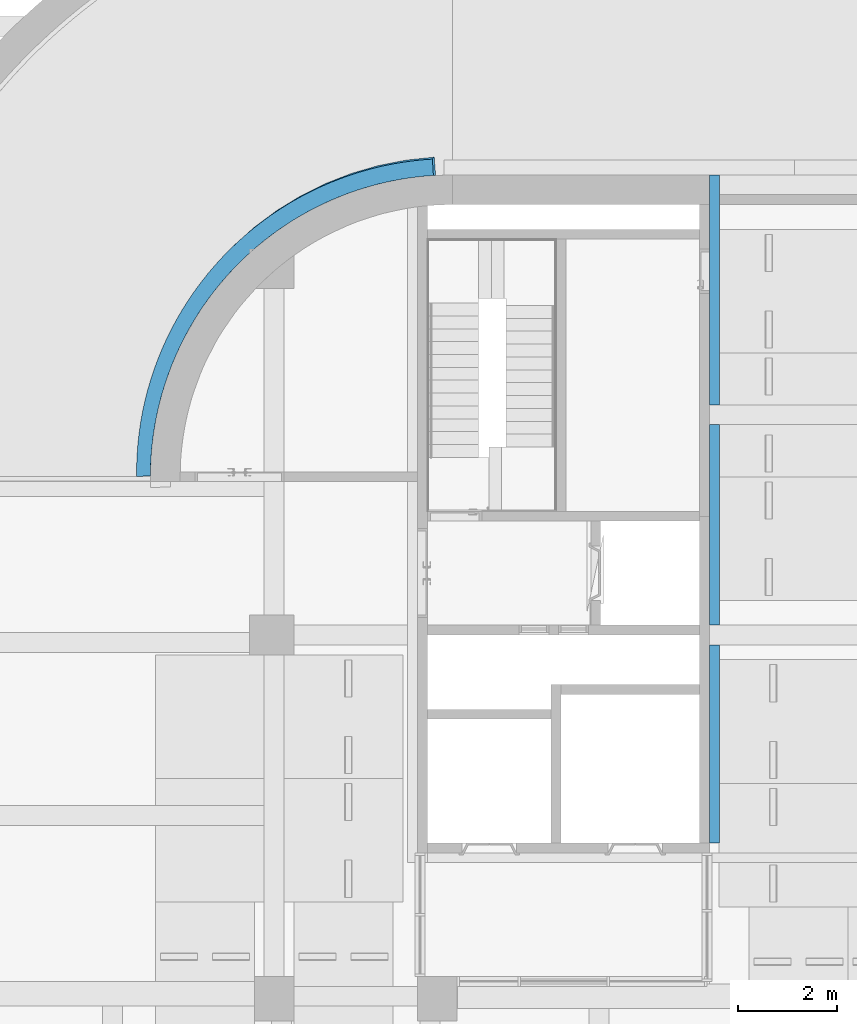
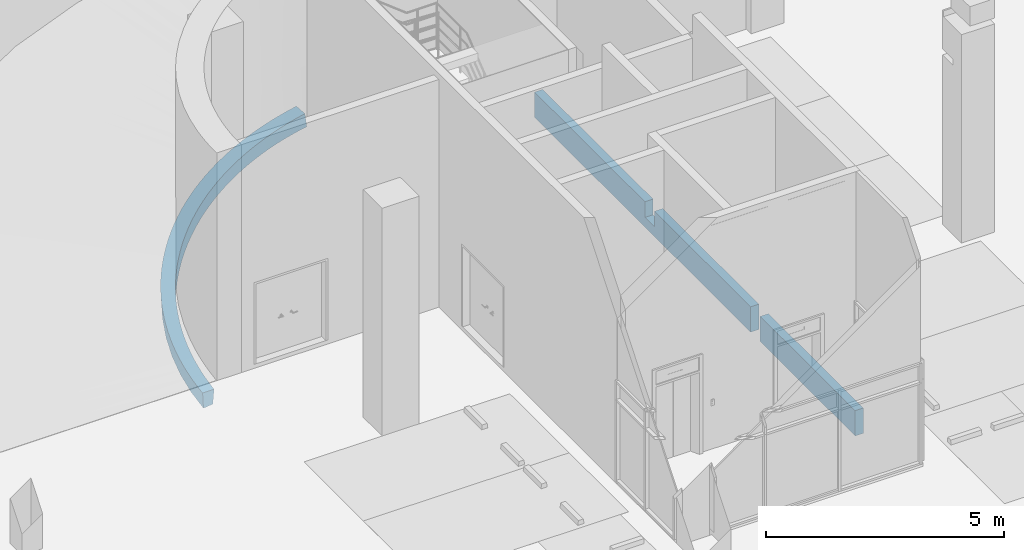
# One storey, part 20 of 29: 2 beams.
"""IFC2X3 building model written with IfcOpenShell, lengths in millimetres."""

import ifcopenshell
import ifcopenshell.guid

model = None  # the IFC model being written
_history = None  # IfcOwnerHistory: only IFC2X3 demands one
_inside = {}  # id of a spatial element -> (the spatial element, [elements in it])
_under = {}  # id of a project, library or spatial element -> (it, [spatial elements below it])
_declared = {}  # id of a project -> (the project, [libraries it declares])
_typed = {}  # id of a type object -> (the type object, [elements of that type])
_made_of = {}  # id of a material, layer set ... -> (it, [elements and type objects made of it])


def new_model(schema):
    """Start an empty IFC model of exactly this schema.

    Asked for "IFC4X3", IfcOpenShell would pick the latest addendum, in which some entities
    have other attributes; the version numbers below select the first issue.
    IFC2X3 requires an IfcOwnerHistory on every rooted entity: one is made here for all.
    """
    global model, _history
    if schema == "IFC4X3":
        model = ifcopenshell.file(schema_version=(4, 3, 0, 0))
    else:
        model = ifcopenshell.file(schema=schema)
    _inside.clear()
    _under.clear()
    _declared.clear()
    _typed.clear()
    _made_of.clear()
    _history = None
    if model.schema == "IFC2X3":
        org = make("IfcOrganization", Name="unknown")
        user = make(
            "IfcPersonAndOrganization",
            ThePerson=make("IfcPerson", FamilyName="unknown"),
            TheOrganization=org,
        )
        app = make(
            "IfcApplication",
            ApplicationDeveloper=org,
            Version="unknown",
            ApplicationFullName="unknown",
            ApplicationIdentifier="unknown",
        )
        _history = make(
            "IfcOwnerHistory",
            OwningUser=user,
            OwningApplication=app,
            ChangeAction="ADDED",
            CreationDate=0,
        )
    return model


def make(cls, **values):
    """One entity of the class cls with the attributes given. An attribute that is None is left unset."""
    return model.create_entity(
        cls, **{name: value for name, value in values.items() if value is not None}
    )


def entity(cls, *values):
    """Any entity or typed value of the class cls, its attributes in the order of the schema. None: left unset."""
    e = model.create_entity(cls)
    for i, value in enumerate(values):
        if value is not None:
            e[i] = value
    return e


def rooted(cls, **values):
    """An entity with a GlobalId (a new one), such as an element, a storey or a relation."""
    return make(cls, GlobalId=ifcopenshell.guid.new(), OwnerHistory=_history, **values)


def si_unit(unit_type, name, prefix=None):
    """IfcSIUnit, for example si_unit("LENGTHUNIT", "METRE", prefix="MILLI")."""
    return make("IfcSIUnit", UnitType=unit_type, Prefix=prefix, Name=name)


def converted_unit(unit_type, name, factor, base, dimensions=None, offset=None):
    """IfcConversionBasedUnit, such as the inch: factor (a typed value) times the base unit."""
    return make(
        "IfcConversionBasedUnit"
        if offset is None
        else "IfcConversionBasedUnitWithOffset",
        ConversionOffset=offset,
        Dimensions=None
        if dimensions is None
        else entity("IfcDimensionalExponents", *dimensions),
        UnitType=unit_type,
        Name=name,
        ConversionFactor=make(
            "IfcMeasureWithUnit", ValueComponent=factor, UnitComponent=base
        ),
    )


def derived_unit(unit_type, elements):
    """IfcDerivedUnit: a product of units, each with its exponent."""
    return make(
        "IfcDerivedUnit",
        Elements=[
            make("IfcDerivedUnitElement", Unit=unit, Exponent=power)
            for unit, power in elements
        ],
        UnitType=unit_type,
    )


def assignment(units):
    """IfcUnitAssignment: the units of a project."""
    return None if units is None else make("IfcUnitAssignment", Units=units)


def point(xyz):
    """IfcCartesianPoint."""
    return None if xyz is None else make("IfcCartesianPoint", Coordinates=xyz)


def direction(xyz):
    """IfcDirection."""
    return None if xyz is None else make("IfcDirection", DirectionRatios=xyz)


def frame(location, z_axis=None, x_axis=None):
    """IfcAxis2Placement3D, a coordinate frame: its origin and axes. An axis left out is left unset."""
    return make(
        "IfcAxis2Placement3D",
        Location=point(location),
        Axis=direction(z_axis),
        RefDirection=direction(x_axis),
    )


def origin():
    """The frame at (0, 0, 0) with its axes left unset."""
    return frame((0.0, 0.0, 0.0))


def place(relative_to, where):
    """IfcLocalPlacement: puts the frame where relative to a parent placement (None: the world)."""
    return make(
        "IfcLocalPlacement", PlacementRelTo=relative_to, RelativePlacement=where
    )


def context(
    kind, dimensions, precision=None, world=None, true_north=None, identifier=None
):
    """IfcGeometricRepresentationContext, for example the 3D "Model" context."""
    return make(
        "IfcGeometricRepresentationContext",
        ContextIdentifier=identifier,
        ContextType=kind,
        CoordinateSpaceDimension=dimensions,
        Precision=precision,
        WorldCoordinateSystem=world,
        TrueNorth=true_north,
    )


def subcontext(parent, identifier, kind, view, scale=None):
    """IfcGeometricRepresentationSubContext, for example "Body" below "Model"."""
    return make(
        "IfcGeometricRepresentationSubContext",
        ContextIdentifier=identifier,
        ContextType=kind,
        ParentContext=parent,
        TargetScale=scale,
        TargetView=view,
    )


def project(units=None, contexts=None):
    """IfcProject with its units and contexts."""
    return rooted(
        "IfcProject",
        Name="project",
        RepresentationContexts=contexts,
        UnitsInContext=assignment(units),
    )


def spatial(cls, under=None, at=None, **own):
    """A site, building, storey or space (cls), placed at a placement, below another one or the project."""
    s = rooted(cls, ObjectPlacement=at, **own)
    if under is not None:
        _under.setdefault(under.id(), (under, []))[1].append(s)
    return s


def faces_of(points, faces, orient=None, outer=None):
    """IfcFace entities. A face is a list of loops; a loop is a list of indices into points, from 0.

    orient and outer hold one flag for each loop. By default every Orientation is true, the
    first loop of a face is its IfcFaceOuterBound and the others are IfcFaceBound.
    """
    made = []
    for i, loops in enumerate(faces):
        bounds = []
        for j, loop in enumerate(loops):
            is_outer = j == 0 if outer is None else outer[i][j]
            bounds.append(
                make(
                    "IfcFaceOuterBound" if is_outer else "IfcFaceBound",
                    Bound=make("IfcPolyLoop", Polygon=[points[k] for k in loop]),
                    Orientation=True if orient is None else orient[i][j],
                )
            )
        made.append(make("IfcFace", Bounds=bounds))
    return made


def faceted_brep(points, faces, orient=None, outer=None, voids=None):
    """IfcFacetedBrep: a solid bounded by flat faces; with voids (closed shells), ...WithVoids."""
    shared = [point(p) for p in points]
    hull = make("IfcClosedShell", CfsFaces=faces_of(shared, faces, orient, outer))
    if voids is None:
        return make("IfcFacetedBrep", Outer=hull)
    return make(
        "IfcFacetedBrepWithVoids",
        Outer=hull,
        Voids=[
            make(cls, CfsFaces=faces_of(shared, fs, o, b)) for cls, fs, o, b in voids
        ],
    )


def shape(context_of_items, identifier, shape_type, items):
    """IfcShapeRepresentation: the items that make up one representation, for example the "Body"."""
    return make(
        "IfcShapeRepresentation",
        ContextOfItems=context_of_items,
        RepresentationIdentifier=identifier,
        RepresentationType=shape_type,
        Items=items,
    )


def source(mapping_origin, context_of_items, identifier, shape_type, items):
    """IfcRepresentationMap: a shape defined once, which mapped items show again and again."""
    return make(
        "IfcRepresentationMap",
        MappingOrigin=mapping_origin,
        MappedRepresentation=shape(context_of_items, identifier, shape_type, items),
    )


def transform(
    local_origin,
    x_axis=None,
    y_axis=None,
    z_axis=None,
    scale=None,
    scale2=None,
    scale3=None,
    uniform=True,
):
    """IfcCartesianTransformationOperator3D, or its non-uniform kind. x_axis, y_axis, z_axis: its Axis1, 2, 3."""
    if uniform:
        return make(
            "IfcCartesianTransformationOperator3D",
            Axis1=direction(x_axis),
            Axis2=direction(y_axis),
            LocalOrigin=point(local_origin),
            Scale=scale,
            Axis3=direction(z_axis),
        )
    return make(
        "IfcCartesianTransformationOperator3DnonUniform",
        Axis1=direction(x_axis),
        Axis2=direction(y_axis),
        LocalOrigin=point(local_origin),
        Scale=scale,
        Axis3=direction(z_axis),
        Scale2=scale2,
        Scale3=scale3,
    )


def mapped(mapping_source, mapping_target):
    """IfcMappedItem: shows the shape of a source again, moved by a transform."""
    return make(
        "IfcMappedItem", MappingSource=mapping_source, MappingTarget=mapping_target
    )


def material(Name=None, Category=None):
    """IfcMaterial."""
    return make("IfcMaterial", Name=Name, Category=Category)


def material_list(materials):
    """IfcMaterialList."""
    return make("IfcMaterialList", Materials=materials)


def made_of(thing, what):
    """Note that an element or type object is made of a material, layer set ...; save() writes the relation."""
    if what is not None:
        _made_of.setdefault(what.id(), (what, []))[1].append(thing)
    return thing


def type_object(cls, material=None, **own):
    """A type object (cls), such as IfcWallType, which elements share."""
    return made_of(rooted(cls, **own), material)


def type_shapes(of_type, sources):
    """Give a type object the sources (RepresentationMaps) that its elements show as mapped items."""
    of_type.RepresentationMaps = sources


def element(
    cls,
    number,
    at=None,
    inside=None,
    cuts=None,
    type_object=None,
    material=None,
    context=None,
    identifier="Body",
    shape_type=None,
    held_by="IfcProductDefinitionShape",
    body=None,
    shapes=None,
    **own,
):
    """One element of the class cls, such as IfcWall. Its Tag is "e" and its number.

    at: its placement. inside: the storey or other place that contains it. cuts: it is an
    opening in that element (IfcRelVoidsElement). A single representation is given by context,
    identifier, shape_type and body (its items); several are given by shapes. held_by: the class
    of the entity that holds the representations. save() writes the other relations.
    """
    e = rooted(cls, Tag="e%d" % number, ObjectPlacement=at, **own)
    if body is not None:
        shapes = [shape(context, identifier, shape_type, body)]
    if shapes is not None:
        e.Representation = make(held_by, Representations=shapes)
    if inside is not None:
        _inside.setdefault(inside.id(), (inside, []))[1].append(e)
    if cuts is not None:
        rooted(
            "IfcRelVoidsElement", RelatingBuildingElement=cuts, RelatedOpeningElement=e
        )
    if type_object is not None:
        _typed.setdefault(type_object.id(), (type_object, []))[1].append(e)
    return made_of(e, material)


def aggregate(whole, parts):
    """IfcRelAggregates: a whole, such as a stair, and the parts it consists of."""
    return rooted("IfcRelAggregates", RelatingObject=whole, RelatedObjects=parts)


def save(model, path):
    """Write the relations noted so far, then the file.

    IfcRelAggregates (storeys below a building ...), IfcRelContainedInSpatialStructure (elements
    in a storey), IfcRelDefinesByType, IfcRelAssociatesMaterial and IfcRelDeclares: one each for
    every whole, place, type object, material and project.
    """
    for whole, parts in _under.values():
        aggregate(whole, parts)
    for where, things in _inside.values():
        rooted(
            "IfcRelContainedInSpatialStructure",
            RelatedElements=things,
            RelatingStructure=where,
        )
    for kind, things in _typed.values():
        rooted("IfcRelDefinesByType", RelatedObjects=things, RelatingType=kind)
    for what, things in _made_of.values():
        rooted("IfcRelAssociatesMaterial", RelatedObjects=things, RelatingMaterial=what)
    for by, libraries in _declared.values():
        rooted("IfcRelDeclares", RelatingContext=by, RelatedDefinitions=libraries)
    model.write(path)


model = new_model("IFC2X3")

# Units and contexts
model_context = context("Model", 3, precision=0.01, world=origin(), true_north=direction((6.123031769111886e-17, 1.0)))
body_context = subcontext(model_context, "Body", "Model", "MODEL_VIEW")
ifc_project = project(units=[si_unit("LENGTHUNIT", "METRE", prefix="MILLI"), si_unit("AREAUNIT", "SQUARE_METRE"), si_unit("VOLUMEUNIT", "CUBIC_METRE"), converted_unit("PLANEANGLEUNIT", "DEGREE", entity("IfcRatioMeasure", 0.017453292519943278), si_unit("PLANEANGLEUNIT", "RADIAN"), dimensions=[0, 0, 0, 0, 0, 0, 0]), si_unit("MASSUNIT", "GRAM", prefix="KILO"), derived_unit("MASSDENSITYUNIT", [(si_unit("MASSUNIT", "GRAM", prefix="KILO"), 1), (si_unit("LENGTHUNIT", "METRE"), -3)]), derived_unit("MOMENTOFINERTIAUNIT", [(si_unit("LENGTHUNIT", "METRE"), 4)]), si_unit("TIMEUNIT", "SECOND"), si_unit("FREQUENCYUNIT", "HERTZ"), si_unit("THERMODYNAMICTEMPERATUREUNIT", "DEGREE_CELSIUS"), derived_unit("THERMALTRANSMITTANCEUNIT", [(si_unit("MASSUNIT", "GRAM", prefix="KILO"), 1), (si_unit("THERMODYNAMICTEMPERATUREUNIT", "KELVIN"), -1), (si_unit("TIMEUNIT", "SECOND"), -3)]), derived_unit("VOLUMETRICFLOWRATEUNIT", [(si_unit("LENGTHUNIT", "METRE"), 3), (si_unit("TIMEUNIT", "SECOND"), -1)]), derived_unit("MASSFLOWRATEUNIT", [(si_unit("MASSUNIT", "GRAM", prefix="KILO"), 1), (si_unit("TIMEUNIT", "SECOND"), -1)]), derived_unit("ROTATIONALFREQUENCYUNIT", [(si_unit("TIMEUNIT", "SECOND"), -1)]), si_unit("ELECTRICCURRENTUNIT", "AMPERE"), si_unit("ELECTRICVOLTAGEUNIT", "VOLT"), si_unit("POWERUNIT", "WATT"), si_unit("FORCEUNIT", "NEWTON", prefix="KILO"), si_unit("ILLUMINANCEUNIT", "LUX"), si_unit("LUMINOUSFLUXUNIT", "LUMEN"), si_unit("LUMINOUSINTENSITYUNIT", "CANDELA"), derived_unit("USERDEFINED", [(si_unit("MASSUNIT", "GRAM", prefix="KILO"), -1), (si_unit("LENGTHUNIT", "METRE"), -2), (si_unit("TIMEUNIT", "SECOND"), 3), (si_unit("LUMINOUSFLUXUNIT", "LUMEN"), 1)]), derived_unit("SOUNDPOWERUNIT", [(si_unit("MASSUNIT", "GRAM", prefix="KILO"), 1), (si_unit("LENGTHUNIT", "METRE"), 2), (si_unit("TIMEUNIT", "SECOND"), -3)]), derived_unit("SOUNDPRESSUREUNIT", [(si_unit("MASSUNIT", "GRAM", prefix="KILO"), 1), (si_unit("LENGTHUNIT", "METRE"), -1), (si_unit("TIMEUNIT", "SECOND"), -2)]), derived_unit("LINEARVELOCITYUNIT", [(si_unit("LENGTHUNIT", "METRE"), 1), (si_unit("TIMEUNIT", "SECOND"), -1)]), si_unit("PRESSUREUNIT", "PASCAL"), derived_unit("USERDEFINED", [(si_unit("LENGTHUNIT", "METRE"), -2), (si_unit("MASSUNIT", "GRAM", prefix="KILO"), 1), (si_unit("TIMEUNIT", "SECOND"), -2)]), derived_unit("LINEARFORCEUNIT", [(si_unit("MASSUNIT", "GRAM", prefix="KILO"), 1), (si_unit("LENGTHUNIT", "METRE"), 1), (si_unit("TIMEUNIT", "SECOND"), -2), (si_unit("LENGTHUNIT", "METRE"), -1)]), derived_unit("PLANARFORCEUNIT", [(si_unit("MASSUNIT", "GRAM", prefix="KILO"), 1), (si_unit("LENGTHUNIT", "METRE"), 1), (si_unit("TIMEUNIT", "SECOND"), -2), (si_unit("LENGTHUNIT", "METRE"), -2)])], contexts=[model_context])

# Site, building, storey
site_placement = place(None, frame((-14167.972527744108, -657.2125860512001, 0.0)))
site = spatial("IfcSite", under=ifc_project, at=site_placement, Name="Default", CompositionType="ELEMENT")
building_placement = place(site_placement, origin())
building = spatial("IfcBuilding", under=site, at=building_placement, Name="Sample Building", CompositionType="ELEMENT")
storey_placement = place(building_placement, frame((0.0, 0.0, -6100.0)))
storey = spatial("IfcBuildingStorey", under=building, at=storey_placement, Name="지하1층", CompositionType="ELEMENT", Elevation=-6099.999999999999)

# Beams
ifc_material = material(Name="KBIMS-콘크리트")
ifc_material_list_1 = material_list([ifc_material, ifc_material])
beam_type_1 = type_object("IfcBeamType", Name="BM111-철근콘크리트구조 보:BM110-철근 콘크리트구조 보_600 x 600_RAWG1", PredefinedType="BEAM", material=ifc_material_list_1)
beam_1_placement = place(storey_placement, frame((24386.24972502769, 23163.61374642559, -629.4841038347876), z_axis=(-0.11708793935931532, -0.12554922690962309, 0.9851536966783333), x_axis=(0.9930939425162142, -0.007405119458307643, 0.11708793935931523)))
element("IfcBeam", 1, at=beam_1_placement, inside=storey, type_object=beam_type_1, material=ifc_material, Name="BM111-철근콘크리트구조 보:BM110-철근 콘크리트구조 보_600 x 600_RAWG1", ObjectType="BM111-철근콘크리트구조 보:BM110-철근 콘크리트구조 보_600 x 600_RAWG1", context=body_context, shape_type="Brep", body=[
    faceted_brep([(307.36863948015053, 57.7994184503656, 196.29712702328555), (331.82988680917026, 57.849593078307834, 404.63610747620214), (262.2529559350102, 57.706877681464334, 412.65338341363), (192.67666160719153, 57.5641635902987, 420.67648295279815), (123.10101557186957, 57.42145082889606, 428.70521375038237), (53.52599759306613, 57.27873935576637, 436.7393953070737), (53.5259975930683, 57.27873935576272, -12.042058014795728), (283.02144798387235, 57.74947777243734, -12.042058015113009), (6110.484162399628, 6488.859000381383, -12.042058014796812), (6106.498907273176, 6547.665994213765, -12.042058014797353), (6106.498907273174, 6547.6659942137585, 304.22107767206), (6107.126567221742, 6538.40415436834, 305.3245415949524), (6107.754227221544, 6529.142313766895, 306.42799914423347), (6111.950686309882, 6467.218764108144, 313.805415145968), (6116.147147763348, 6405.295179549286, 321.1825366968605), (6120.343611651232, 6343.371559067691, 328.55935517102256), (6124.540078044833, 6281.44790161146, 335.9358616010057), (6128.736547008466, 6219.524206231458, 343.3120466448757), (6130.166685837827, 6198.420873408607, 165.6305212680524), (6131.602364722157, 6177.235790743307, -12.042058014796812), (6123.554226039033, 6295.9952746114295, -12.042058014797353), (5535.486422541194, 6483.481419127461, -12.042058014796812), (5797.601725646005, 6519.304648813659, 299.74415711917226), (5071.691334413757, 6393.029953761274, 295.6606544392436), (4972.386151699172, 6369.05676104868, -12.042058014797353), (4854.709407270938, 6338.493302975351, 296.10147302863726), (5290.42366044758, 6440.057509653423, 295.9735790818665), (5510.643761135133, 6479.519653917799, 297.07860678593), (5732.087518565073, 6511.369489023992, 299.0110674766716), (4639.738014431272, 6276.513080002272, 297.2553825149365), (3374.156703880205, 5735.229387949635, -12.042058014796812), (3603.9196658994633, 5857.872286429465, 312.2430886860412), (3887.471552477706, 5993.459486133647, -12.042058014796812), (2885.6864417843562, 5432.621191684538, -12.04205801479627), (3212.3940822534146, 5641.584639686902, 321.7366783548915), (2425.887558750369, 5088.005602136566, -12.042058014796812), (2655.3831845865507, 5267.957715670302, 338.6243199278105), (4427.034164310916, 6207.163763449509, 299.0807320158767), (4421.609556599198, 6205.288450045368, -12.042058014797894), (4216.8517758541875, 6130.528708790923, 301.5351230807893), (1998.3622289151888, 4704.082420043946, -12.042058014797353), (2139.935574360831, 4838.891606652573, 357.60326072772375), (5863.192123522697, 6526.573314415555, 300.55309819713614), (5984.747731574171, 6538.263995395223, 302.25304184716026), (3805.04977223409, 5955.77821454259, 308.1592624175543), (4009.441316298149, 6046.699964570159, 304.5756494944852), (3406.2897095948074, 5753.099370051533, 316.7836138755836), (2836.7188787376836, 5398.8694563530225, 332.7018938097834), (3022.462273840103, 5523.461107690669, 327.0576996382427), (2478.6693438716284, 5130.881339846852, 344.7794468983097), (2306.78588389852, 4987.802833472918, 351.1212140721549), (1978.3152453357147, 4684.323798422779, 364.1791493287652), (1822.115576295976, 4524.282069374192, 370.80258840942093), (1606.4597877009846, 4283.859391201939, -12.042058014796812), (1671.520838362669, 4358.9553275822, 377.42748650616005), (1387.8509485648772, 4013.2334310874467, 390.4962569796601), (1253.25049232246, 3830.628643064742, -12.04205801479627), (1526.7089148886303, 4188.538753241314, 384.0075468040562), (1255.1111962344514, 3833.246183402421, 396.84710639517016), (1128.6468632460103, 3648.789383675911, 403.0138097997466), (277.7030342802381, 1761.9250847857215, -12.042058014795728), (359.24310390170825, 2039.374305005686, 440.29632694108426), (451.80955801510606, 2309.5215016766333, -12.042058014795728), (152.69945376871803, 1201.0783835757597, -12.042058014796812), (189.08746142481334, 1390.4081305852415, 445.8383787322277), (77.77812435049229, 631.3752048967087, -12.042058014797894), (113.28013104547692, 949.4828698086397, 446.0463985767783), (1008.6079132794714, 3460.0807318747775, 408.95054734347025), (941.5014686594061, 3347.940893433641, -12.042058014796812), (788.3687044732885, 3070.80390371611, 419.9533480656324), (673.6550329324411, 2839.5776332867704, -12.042058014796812), (595.4420710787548, 2667.2559863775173, 429.4954757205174), (56.92140325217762, 280.9544527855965, 440.3680461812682), (688.4306788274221, 2870.695947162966, 424.9293494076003), (895.1368558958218, 3267.3429737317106, 414.61209158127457), (430.74955473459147, 2251.348226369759, 437.2225089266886), (509.5140679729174, 2460.725101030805, 433.6076805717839), (68.02200389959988, 504.3930166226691, 443.1063378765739), (86.8155380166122, 727.3252366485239, 444.9876427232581), (238.3393106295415, 1608.6473699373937, 444.6470778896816), (295.0806258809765, 1825.05554133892, 442.78556591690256), (147.3843799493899, 1170.5989394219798, 446.3179052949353), (294.1849817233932, 334.74710798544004, -12.042058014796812), (5863.7299019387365, 6154.5340811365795, -12.042058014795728), (5596.929868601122, 6120.148767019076, -12.04205801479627), (5331.712062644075, 6074.145551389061, -12.042058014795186), (5068.583258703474, 6016.612336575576, -12.04205801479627), (4808.046239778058, 5947.6590562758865, -12.042058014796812), (4550.598836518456, 5867.417465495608, -12.04205801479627), (4296.7329759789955, 5776.040888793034, -12.042058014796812), (4046.93374165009, 5673.703927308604, -12.042058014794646), (3801.678446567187, 5560.602125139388, -12.042058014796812), (3561.4357212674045, 5436.951595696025, -12.042058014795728), (3326.6646183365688, 5302.988608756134, -12.042058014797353), (3097.8137352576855, 5158.969139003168, -12.042058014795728), (2875.3203572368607, 5005.168376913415, -12.042058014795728), (2659.6096216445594, 4841.880202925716, -12.042058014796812), (2451.093705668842, 4669.416625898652, -12.04205801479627), (2250.171038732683, 4488.107186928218, -12.04205801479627), (2057.225541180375, 4298.298329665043, -12.04205801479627), (1872.6258906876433, 4100.352738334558, -12.042058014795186), (1696.7248177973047, 3894.6486447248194, -12.04205801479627), (1529.858431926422, 3681.5791054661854, -12.042058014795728), (1431.7563608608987, 3544.349028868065, -12.042058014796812), (1399.6993795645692, 3499.506122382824, -12.042058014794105), (1367.6423982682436, 3454.6632158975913, -12.042058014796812), (1291.6685279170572, 3337.738729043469, -12.04205801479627), (1215.6946575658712, 3220.8142421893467, -12.04205801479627), (1074.3237207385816, 2980.506985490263, -12.04205801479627), (943.8166238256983, 2734.229359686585, -12.042058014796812), (824.4383451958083, 2482.481400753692, -12.042058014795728), (716.431267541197, 2225.7742514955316, -12.042058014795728), (620.0146857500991, 1964.6291237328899, -12.042058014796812), (535.3843616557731, 1699.576240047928, -12.042058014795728), (462.7121265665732, 1431.1537572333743, -12.042058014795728), (402.14553238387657, 1159.906673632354, -12.042058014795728), (353.80755201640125, 886.3857225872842, -12.042058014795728), (317.7963296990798, 611.1462542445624, -12.042058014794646), (1135.833884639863, 3078.5806668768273, 111.63560822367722), (1259.0167796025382, 3284.8890770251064, 70.70281482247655), (1021.0744311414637, 2867.397353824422, 152.18851865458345), (579.5551682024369, 1750.400322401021, 347.0156761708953), (817.5450292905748, 2431.7620418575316, 231.89640094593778), (729.100012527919, 2208.0055285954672, 270.92412032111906), (914.9216564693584, 2651.6763465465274, 192.29679360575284), (564.3399061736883, 1692.1207867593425, 356.25126484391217), (549.1246441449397, 1633.8412511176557, 365.4868535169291), (533.9093821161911, 1575.561715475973, 374.722442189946), (526.3017511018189, 1546.4219476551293, 379.34023652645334), (518.6941200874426, 1517.2821798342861, 383.9580308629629), (649.7278154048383, 1980.764027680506, 309.317643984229), (614.6414918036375, 1865.58217504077, 328.16666007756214), (597.0983300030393, 1807.9912487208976, 337.5911681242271), (1432.3684591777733, 3544.82666754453, 16.972767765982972), (1390.4267342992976, 3485.993610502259, 29.455403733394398), (1324.721756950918, 3385.441343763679, 50.07910927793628), (689.413913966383, 2094.384778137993, 290.12088215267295), (773.3225209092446, 2319.8837852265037, 251.41026063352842), (416.3744381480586, 1012.4564004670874, 418.77762941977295), (467.24186033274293, 1281.7817643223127, 420.0857277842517), (377.32940651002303, 741.1729044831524, 416.31171307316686), (334.95596987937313, 194.8347807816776, 407.6338347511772), (341.07165451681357, 331.7258194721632, 410.2922655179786), (350.1749760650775, 468.45655544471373, 412.61930280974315), (440.3355018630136, 1147.3964370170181, 419.5720203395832), (511.69640480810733, 1485.253171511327, 388.8715436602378), (504.6986895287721, 1453.2241631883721, 393.7850564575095), (497.7009742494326, 1421.195154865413, 398.69856925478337), (490.70325897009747, 1389.1661465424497, 403.6120820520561), (362.26251680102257, 604.9609056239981, 414.62303431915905), (395.3693248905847, 877.0267430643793, 417.6937376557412), (4176.810479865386, 5755.1546558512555, 328.122719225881), (532.0109718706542, 1554.0290045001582, 420.2417036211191), (3769.895715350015, 5568.436725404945, 332.206249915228), (511.2164554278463, 1472.6741981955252, 420.3137600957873), (504.929246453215, 1445.3816075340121, 420.28115748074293), (498.6420374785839, 1418.0890168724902, 420.2485548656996), (492.354828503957, 1390.7964262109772, 420.21595225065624), (517.5036644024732, 1499.9667888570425, 420.3463627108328), (546.5182793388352, 1608.0912201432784, 420.13704453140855), (3971.679275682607, 5665.437674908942, 329.89971546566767), (5243.271975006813, 6090.883189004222, 328.77157768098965), (575.5328942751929, 1716.2156514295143, 419.9277263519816), (561.0255868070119, 1662.1534357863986, 420.03238544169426), (4596.051977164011, 5912.29597545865, 326.33968651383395), (714.5988073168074, 2141.789814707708, 417.2347640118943), (591.9642631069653, 1769.723934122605, 419.66457930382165), (5025.453411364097, 6039.077859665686, 327.2209084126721), (4385.024414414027, 5837.475042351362, 326.92078948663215), (3187.212580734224, 5234.99938784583, 341.83715514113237), (2820.1394735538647, 4978.776907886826, 350.04079711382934), (3001.3761879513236, 5110.178305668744, 345.79272875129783), (3377.4090791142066, 5353.0812964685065, 338.2223134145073), (795.4628651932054, 2350.5657002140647, 415.0533148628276), (2643.7359842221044, 4840.962716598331, 354.53232337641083), (524.7573181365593, 1526.997896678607, 420.2940331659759), (3571.7203713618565, 5464.27404648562, 334.9961337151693), (5905.81293868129, 6199.235671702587, 338.35372803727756), (755.0308362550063, 2246.177757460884, 416.14403943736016), (677.9285884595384, 2036.019298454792, 418.0549510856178), (641.2583696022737, 1930.2487822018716, 418.87513815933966), (5683.736436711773, 6171.009565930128, 334.30097951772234), (5462.794226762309, 6134.877938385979, 331.11888752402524), (4809.62036371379, 5979.524539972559, 326.424830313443), (608.3956319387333, 1823.2322168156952, 419.4014322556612), (1308.7514383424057, 3343.6852785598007, 397.6748435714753), (1191.982695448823, 3152.691302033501, 401.8545784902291), (1082.134614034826, 2957.62851433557, 405.7305080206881), (1562.4474936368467, 3712.488531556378, 388.5985972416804), (1699.0510377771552, 3889.8231764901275, 383.800718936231), (1841.928111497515, 4062.1403650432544, 378.8963810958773), (979.3467138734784, 2758.748279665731, 409.2541919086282), (883.7492126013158, 2556.3069859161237, 412.37758300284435), (2306.330634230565, 4546.807928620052, 364.0466662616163), (2145.762814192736, 4390.843645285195, 368.96937211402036), (1990.8957129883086, 4229.2186888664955, 373.935881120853), (2472.3928726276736, 4696.911669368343, 359.21762316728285), (1432.2922127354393, 3530.364453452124, 393.2398701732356), (5427.069542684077, 6308.790926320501, 312.5307505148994), (5636.155750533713, 6347.61567672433, 314.16139251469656), (5000.384230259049, 6216.072730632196, 310.490096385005), (5212.408161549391, 6268.592113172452, 310.882146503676), (4656.358146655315, 6095.002857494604, 312.9055437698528), (1078.6513389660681, 3288.0697729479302, 406.6140470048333), (975.4596897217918, 3100.9679025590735, 411.0715852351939), (5847.931121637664, 6358.238873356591, 318.9185589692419), (4375.515032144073, 6021.057201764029, 312.7897230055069), (4169.667131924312, 5947.811087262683, 314.29993674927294), (3972.096968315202, 5854.717026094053, 317.3798891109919), (3392.0619108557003, 5552.877020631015, 327.94151647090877), (3595.8823742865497, 5661.933082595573, 324.0729616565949), (3775.048897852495, 5775.275213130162, 319.5472232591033), (3209.618401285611, 5433.185391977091, 332.56247934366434), (3019.171419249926, 5326.979303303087, 336.46221101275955), (2818.2914132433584, 5173.41151291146, 342.4771616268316), (2491.4527827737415, 4940.040516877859, 351.58257595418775), (2163.5526398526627, 4651.681715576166, 362.67367774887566), (2324.2753659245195, 4799.555286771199, 357.04157476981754), (2642.577315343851, 5074.973010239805, 346.3287784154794), (871.204790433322, 2903.3951426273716, 415.52744444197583), (777.8686960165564, 2705.803499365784, 419.4075267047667), (1860.3127121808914, 4343.237405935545, 374.003857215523), (1711.806711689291, 4177.125459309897, 379.84751065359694), (1439.714453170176, 3835.1497614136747, 391.0786716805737), (2007.4114950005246, 4498.89586404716, 368.37609209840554), (612.5467823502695, 2301.3647813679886, 425.7801973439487), (536.5539559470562, 2096.53014137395, 428.4868378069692), (466.9708820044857, 1889.3247459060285, 430.7242300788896), (692.6430778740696, 2505.994666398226, 422.78769033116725), (1577.6909197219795, 4012.357834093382, 385.3442070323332), (1318.1680461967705, 3661.321849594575, 396.2790953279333), (1188.924471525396, 3467.0674533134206, 401.8383669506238)], [[[0, 1, 2, 3, 4, 5, 6, 7]], [[8, 9, 10, 11, 12, 13, 14, 15, 16, 17, 18, 19, 20]], [[21, 22, 9]], [[23, 24, 25]], [[21, 24, 26]], [[23, 26, 24]], [[27, 28, 21]], [[27, 21, 26]], [[24, 29, 25]], [[22, 21, 28]], [[30, 31, 32]], [[33, 34, 30]], [[35, 36, 33]], [[37, 29, 38]], [[37, 38, 39]], [[29, 24, 38]], [[32, 39, 38]], [[35, 40, 41]], [[42, 43, 9]], [[42, 9, 22]], [[31, 44, 32]], [[45, 32, 44]], [[39, 32, 45]], [[43, 10, 9]], [[34, 46, 30]], [[47, 48, 33]], [[34, 33, 48]], [[49, 36, 35]], [[41, 50, 35]], [[49, 35, 50]], [[47, 33, 36]], [[31, 30, 46]], [[40, 51, 41]], [[51, 40, 52]], [[52, 53, 54]], [[40, 53, 52]], [[55, 53, 56]], [[54, 53, 57]], [[55, 57, 53]], [[58, 55, 56]], [[56, 59, 58]], [[60, 61, 62]], [[63, 64, 60]], [[65, 66, 63]], [[67, 59, 68]], [[68, 59, 56]], [[69, 68, 70]], [[62, 71, 70]], [[65, 6, 72]], [[70, 73, 69]], [[70, 71, 73]], [[69, 74, 68]], [[75, 76, 62]], [[61, 75, 62]], [[76, 71, 62]], [[67, 68, 74]], [[65, 77, 78]], [[79, 80, 60]], [[72, 77, 65]], [[61, 60, 80]], [[60, 64, 79]], [[66, 81, 63]], [[64, 63, 81]], [[65, 78, 66]], [[72, 6, 5]], [[82, 7, 6, 65, 63, 60, 62, 70, 68, 56, 53, 40, 35, 33, 30, 32, 38, 24, 21, 9, 8, 20, 19, 83, 84, 85, 86, 87, 88, 89, 90, 91, 92, 93, 94, 95, 96, 97, 98, 99, 100, 101, 102, 103, 104, 105, 106, 107, 108, 109, 110, 111, 112, 113, 114, 115, 116, 117]], [[108, 107, 118]], [[106, 119, 107]], [[108, 120, 109]], [[121, 113, 112]], [[111, 110, 122]], [[111, 123, 112]], [[124, 110, 109]], [[113, 121, 125, 126, 127, 128, 129]], [[112, 130, 131, 132, 121]], [[107, 119, 118]], [[105, 104, 103, 102, 133, 134]], [[105, 134, 135]], [[105, 135, 106]], [[112, 123, 136, 130]], [[109, 120, 124]], [[110, 124, 122]], [[111, 122, 137, 123]], [[120, 108, 118]], [[116, 115, 138]], [[114, 139, 115]], [[116, 140, 117]], [[0, 7, 82]], [[1, 0, 141]], [[142, 0, 82]], [[143, 82, 117]], [[0, 142, 141]], [[144, 115, 139]], [[119, 106, 135]], [[114, 129, 145, 146, 147, 148, 139]], [[144, 138, 115]], [[143, 117, 149]], [[150, 116, 138]], [[140, 116, 150]], [[149, 117, 140]], [[143, 142, 82]], [[113, 129, 114]], [[90, 89, 151]], [[128, 127, 152]], [[92, 91, 153]], [[154, 155, 156, 157, 139, 148, 147, 146, 145, 129, 158]], [[152, 127, 159]], [[91, 90, 160]], [[86, 85, 161]], [[162, 163, 125]], [[88, 87, 164]], [[136, 123, 165]], [[166, 162, 121]], [[87, 86, 167]], [[168, 89, 88]], [[169, 94, 93]], [[170, 96, 95]], [[171, 95, 94]], [[163, 159, 126]], [[93, 172, 169]], [[137, 122, 173]], [[95, 171, 170]], [[96, 170, 174]], [[128, 152, 175]], [[171, 94, 169]], [[174, 97, 96]], [[92, 172, 93]], [[127, 126, 159]], [[172, 92, 176]], [[83, 19, 18]], [[177, 83, 18]], [[178, 165, 123]], [[179, 180, 130]], [[84, 83, 181]], [[177, 18, 17]], [[125, 121, 162]], [[181, 83, 177]], [[181, 182, 84]], [[84, 182, 85]], [[168, 151, 89]], [[151, 160, 90]], [[88, 164, 168]], [[161, 85, 182]], [[167, 183, 87]], [[183, 164, 87]], [[184, 131, 180]], [[161, 167, 86]], [[132, 184, 166]], [[91, 160, 153]], [[153, 176, 92]], [[175, 158, 129]], [[185, 119, 135, 134]], [[186, 118, 119]], [[187, 120, 118]], [[188, 134, 133, 102]], [[189, 102, 101]], [[190, 101, 100]], [[124, 120, 191]], [[132, 166, 121]], [[129, 128, 175]], [[178, 123, 137]], [[136, 179, 130]], [[131, 130, 180]], [[163, 126, 125]], [[192, 122, 124]], [[136, 165, 179]], [[98, 97, 193]], [[194, 99, 98]], [[190, 189, 101]], [[190, 100, 195]], [[193, 97, 196]], [[194, 98, 193]], [[100, 99, 195]], [[194, 195, 99]], [[174, 196, 97]], [[191, 120, 187]], [[132, 131, 184]], [[173, 122, 192]], [[191, 192, 124]], [[189, 188, 102]], [[188, 197, 134]], [[197, 185, 134]], [[119, 185, 186]], [[187, 118, 186]], [[137, 173, 178]], [[198, 199, 27]], [[27, 26, 198]], [[25, 200, 23]], [[23, 200, 201]], [[25, 202, 200]], [[10, 43, 11]], [[12, 11, 43]], [[203, 74, 204]], [[42, 22, 205]], [[42, 205, 43]], [[205, 177, 15]], [[37, 206, 202]], [[207, 45, 208]], [[208, 45, 44]], [[46, 209, 210]], [[44, 211, 208]], [[212, 48, 213]], [[47, 213, 48]], [[47, 214, 213]], [[49, 50, 215]], [[41, 216, 217]], [[49, 215, 218]], [[34, 48, 212]], [[39, 206, 37]], [[216, 41, 51]], [[13, 43, 14]], [[43, 13, 12]], [[204, 69, 219]], [[74, 69, 204]], [[16, 15, 177]], [[205, 15, 14]], [[201, 161, 198]], [[219, 191, 187]], [[167, 200, 183]], [[220, 219, 73]], [[221, 222, 190]], [[17, 16, 177]], [[14, 43, 205]], [[223, 188, 189]], [[164, 206, 168]], [[198, 161, 182]], [[224, 52, 221]], [[205, 199, 181]], [[31, 210, 211]], [[181, 177, 205]], [[28, 27, 199]], [[225, 226, 165]], [[164, 183, 202]], [[226, 61, 227]], [[207, 151, 168]], [[208, 211, 160]], [[22, 28, 205]], [[207, 168, 206]], [[169, 172, 212]], [[31, 46, 210]], [[214, 218, 170]], [[218, 174, 170]], [[214, 170, 171]], [[213, 171, 169]], [[206, 164, 202]], [[176, 153, 210]], [[45, 207, 39]], [[198, 26, 201]], [[46, 34, 209]], [[212, 172, 209]], [[213, 214, 171]], [[225, 228, 76]], [[196, 174, 215]], [[50, 217, 215]], [[217, 216, 193]], [[23, 201, 26]], [[217, 196, 215]], [[199, 182, 181]], [[194, 193, 216]], [[57, 55, 229]], [[51, 52, 224]], [[185, 203, 186]], [[221, 195, 224]], [[54, 57, 222]], [[55, 58, 223]], [[229, 189, 190]], [[197, 188, 230]], [[67, 74, 203]], [[187, 186, 204]], [[73, 71, 220]], [[153, 211, 210]], [[219, 69, 73]], [[231, 67, 203]], [[228, 173, 192]], [[75, 61, 226]], [[153, 160, 211]], [[176, 210, 209]], [[61, 80, 227]], [[79, 64, 158]], [[218, 215, 174]], [[169, 212, 213]], [[162, 80, 79]], [[36, 218, 214]], [[81, 139, 64]], [[78, 140, 66]], [[28, 199, 205]], [[199, 198, 182]], [[77, 149, 78]], [[72, 5, 4]], [[151, 207, 208]], [[162, 227, 80]], [[4, 3, 72]], [[226, 227, 180]], [[77, 72, 142]], [[39, 207, 206]], [[81, 66, 138]], [[34, 212, 209]], [[226, 225, 75]], [[31, 211, 44]], [[72, 3, 141]], [[172, 176, 209]], [[229, 190, 222]], [[188, 223, 230]], [[151, 208, 160]], [[219, 220, 191]], [[187, 204, 219]], [[226, 180, 179, 165]], [[186, 203, 204]], [[229, 223, 189]], [[47, 36, 214]], [[191, 220, 192]], [[161, 200, 167]], [[203, 185, 231]], [[216, 51, 224]], [[50, 41, 217]], [[220, 228, 192]], [[71, 76, 228]], [[76, 75, 225]], [[36, 49, 218]], [[217, 193, 196]], [[231, 197, 230]], [[221, 54, 222]], [[216, 224, 194]], [[221, 190, 195]], [[64, 139, 157, 156, 155, 154, 158]], [[79, 158, 175, 152, 159, 163, 162]], [[78, 149, 140]], [[161, 201, 200]], [[77, 142, 143]], [[143, 149, 77]], [[72, 141, 142]], [[25, 29, 202]], [[227, 162, 166, 184, 180]], [[228, 225, 173]], [[144, 139, 81]], [[138, 144, 81]], [[230, 59, 231]], [[229, 55, 223]], [[52, 54, 221]], [[220, 71, 228]], [[223, 58, 230]], [[222, 57, 229]], [[141, 2, 1]], [[66, 150, 138]], [[140, 150, 66]], [[59, 67, 231]], [[200, 202, 183]], [[225, 165, 178, 173]], [[2, 141, 3]], [[58, 59, 230]], [[202, 29, 37]], [[195, 194, 224]], [[231, 185, 197]]]),
])
ifc_material_list_2 = material_list([ifc_material, ifc_material])
ifc_material_list_3 = material_list([ifc_material, ifc_material])
beam_type_2 = type_object("IfcBeamType", Name="BM111-철근콘크리트구조 보:BM110-철근 콘크리트구조 보_400 x 850_-1WG1", PredefinedType="BEAM", material=ifc_material_list_3)
shared_shape = source(origin(), body_context, "Body", "Brep", [
    faceted_brep([(199.99047405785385, 4000.008729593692, 0.0), (199.99047405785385, 4000.008729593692, 650.0), (199.9904740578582, 0.0, 650.0), (199.9904740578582, 0.0, 0.0), (0.0, 0.0, 0.0), (0.0, 4000.008729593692, 0.0), (0.0, 0.0, 650.0), (0.0, 4000.008729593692, 650.0)], [[[0, 1, 2, 3]], [[0, 3, 4, 5]], [[3, 2, 6, 4]], [[1, 0, 5, 7]], [[2, 1, 7, 6]], [[5, 4, 6, 7]]]),
    faceted_brep([(199.99047405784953, 4400.008729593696, 0.0), (199.99047405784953, 4400.008729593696, 650.0), (0.0, 4400.008729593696, 650.0), (0.0, 4400.008729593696, 0.0), (199.9904740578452, 8850.008729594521, 250.0), (199.9904740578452, 8850.008729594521, 650.0), (0.0, 8850.008729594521, 650.0), (0.0, 8850.008729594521, 250.0), (199.9904740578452, 8450.008729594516, 250.0), (0.0, 8450.008729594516, 250.0), (199.9904740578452, 8450.008729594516, 650.0), (0.0, 8450.008729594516, 650.0), (199.99047405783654, 13500.008420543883, 14.21957822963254), (199.99047405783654, 13200.008729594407, 14.219578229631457), (117.47537803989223, 13200.008729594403, 0.0), (117.4753780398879, 13500.008420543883, 0.0), (199.99047405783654, 13200.008729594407, 0.0), (199.99047405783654, 13100.008729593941, 0.0), (199.99047405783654, 13500.008420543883, 650.0), (199.99047405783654, 13100.008729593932, 650.0), (0.0, 6700.008423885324, 650.0), (0.0, 13500.008420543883, 650.0), (0.0, 13500.008420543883, 0.0)], [[[0, 1, 2, 3]], [[4, 5, 6, 7]], [[8, 4, 7, 9]], [[10, 8, 9, 11]], [[12, 13, 14, 15]], [[13, 16, 14]], [[4, 8, 10, 1, 0, 17, 16, 13, 12, 18, 19, 5]], [[2, 1, 10, 11, 20]], [[3, 2, 20, 11, 9, 7, 6, 21, 22]], [[12, 15, 22, 21, 18]], [[16, 17, 0, 3, 22, 15, 14]], [[5, 19, 18, 21, 6]]]),
])
type_shapes(beam_type_2, [shared_shape])
beam_2_placement = place(storey_placement, frame((35967.972491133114, 15757.203887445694, -850.0)))
element("IfcBeam", 2, at=beam_2_placement, inside=storey, type_object=beam_type_2, material=ifc_material_list_2, Name="BM111-철근콘크리트구조 보:BM110-철근 콘크리트구조 보_400 x 850_-1WG1", ObjectType="BM111-철근콘크리트구조 보:BM110-철근 콘크리트구조 보_400 x 850_-1WG1", context=body_context, shape_type="MappedRepresentation", body=[
    mapped(shared_shape, transform((0.0, 0.0, 0.0), scale=1.0)),
])

save(model, "model.ifc")
